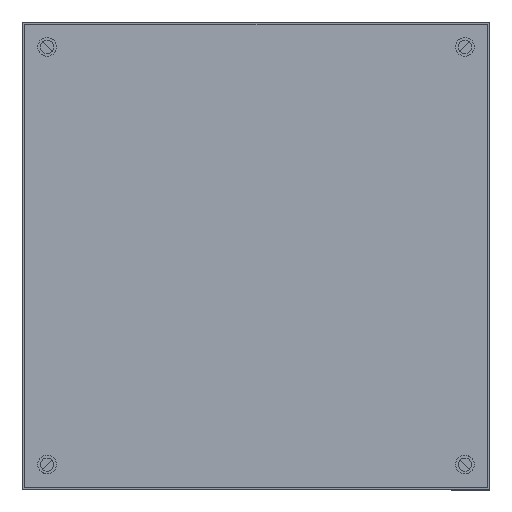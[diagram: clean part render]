
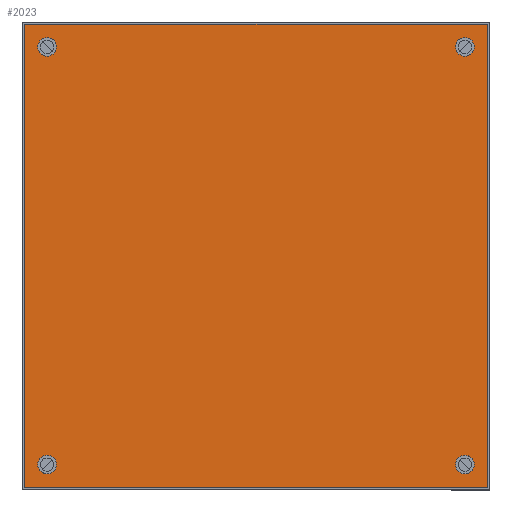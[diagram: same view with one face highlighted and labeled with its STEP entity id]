
A CAD part, top view. The second image highlights one B-rep face of the part: STEP entity #2023.
In plain terms, the highlighted planar face has unit normal (0, 0, 1).
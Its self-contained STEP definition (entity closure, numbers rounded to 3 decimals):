
#187=CIRCLE('',#2829,3.);
#189=CIRCLE('',#2832,3.);
#191=CIRCLE('',#2835,3.);
#193=CIRCLE('',#2838,3.);
#689=ORIENTED_EDGE('',*,*,#975,.F.);
#690=ORIENTED_EDGE('',*,*,#973,.F.);
#691=ORIENTED_EDGE('',*,*,#971,.F.);
#692=ORIENTED_EDGE('',*,*,#969,.F.);
#693=ORIENTED_EDGE('',*,*,#976,.F.);
#694=ORIENTED_EDGE('',*,*,#977,.F.);
#695=ORIENTED_EDGE('',*,*,#967,.F.);
#696=ORIENTED_EDGE('',*,*,#978,.F.);
#967=EDGE_CURVE('',#1152,#1153,#1314,.T.);
#969=EDGE_CURVE('',#1154,#1154,#187,.T.);
#971=EDGE_CURVE('',#1156,#1156,#189,.T.);
#973=EDGE_CURVE('',#1158,#1158,#191,.T.);
#975=EDGE_CURVE('',#1160,#1160,#193,.T.);
#976=EDGE_CURVE('',#1161,#1162,#1316,.T.);
#977=EDGE_CURVE('',#1153,#1161,#1317,.T.);
#978=EDGE_CURVE('',#1162,#1152,#1318,.T.);
#1152=VERTEX_POINT('',#4048);
#1153=VERTEX_POINT('',#4050);
#1154=VERTEX_POINT('',#4054);
#1156=VERTEX_POINT('',#4059);
#1158=VERTEX_POINT('',#4064);
#1160=VERTEX_POINT('',#4069);
#1161=VERTEX_POINT('',#4071);
#1162=VERTEX_POINT('',#4072);
#1314=LINE('',#4049,#1466);
#1316=LINE('',#4070,#1468);
#1317=LINE('',#4073,#1469);
#1318=LINE('',#4074,#1470);
#1466=VECTOR('',#3365,1000.);
#1468=VECTOR('',#3389,1000.);
#1469=VECTOR('',#3390,1000.);
#1470=VECTOR('',#3391,1000.);
#1627=EDGE_LOOP('',(#689));
#1628=EDGE_LOOP('',(#690));
#1629=EDGE_LOOP('',(#691));
#1630=EDGE_LOOP('',(#692));
#1631=EDGE_LOOP('',(#693,#694,#695,#696));
#1808=FACE_BOUND('',#1627,.T.);
#1809=FACE_BOUND('',#1628,.T.);
#1810=FACE_BOUND('',#1629,.T.);
#1811=FACE_BOUND('',#1630,.T.);
#1812=FACE_BOUND('',#1631,.T.);
#1904=PLANE('',#2837);
#2023=ADVANCED_FACE('',(#1808,#1809,#1810,#1811,#1812),#1904,.F.);
#2829=AXIS2_PLACEMENT_3D('',#4053,#3369,#3370);
#2832=AXIS2_PLACEMENT_3D('',#4058,#3375,#3376);
#2835=AXIS2_PLACEMENT_3D('',#4063,#3381,#3382);
#2837=AXIS2_PLACEMENT_3D('',#4067,#3385,#3386);
#2838=AXIS2_PLACEMENT_3D('',#4068,#3387,#3388);
#3365=DIRECTION('',(1.,0.,0.));
#3369=DIRECTION('',(0.,0.,1.));
#3370=DIRECTION('',(0.,1.,0.));
#3375=DIRECTION('',(0.,0.,1.));
#3376=DIRECTION('',(0.,1.,0.));
#3381=DIRECTION('',(0.,0.,1.));
#3382=DIRECTION('',(0.,1.,0.));
#3385=DIRECTION('',(0.,0.,-1.));
#3386=DIRECTION('',(-1.,0.,0.));
#3387=DIRECTION('',(0.,0.,1.));
#3388=DIRECTION('',(0.,1.,0.));
#3389=DIRECTION('',(-1.,0.,0.));
#3390=DIRECTION('',(0.,-1.,0.));
#3391=DIRECTION('',(0.,1.,0.));
#4048=CARTESIAN_POINT('',(-74.25,74.25,0.));
#4049=CARTESIAN_POINT('',(-74.25,74.25,0.));
#4050=CARTESIAN_POINT('',(74.25,74.25,0.));
#4053=CARTESIAN_POINT('',(-67.,-67.,0.));
#4054=CARTESIAN_POINT('',(-67.,-64.,0.));
#4058=CARTESIAN_POINT('',(-67.,67.,0.));
#4059=CARTESIAN_POINT('',(-67.,70.,0.));
#4063=CARTESIAN_POINT('',(67.,-67.,0.));
#4064=CARTESIAN_POINT('',(67.,-64.,0.));
#4067=CARTESIAN_POINT('',(0.,0.,0.));
#4068=CARTESIAN_POINT('',(67.,67.,0.));
#4069=CARTESIAN_POINT('',(67.,70.,0.));
#4070=CARTESIAN_POINT('',(74.25,-74.25,0.));
#4071=CARTESIAN_POINT('',(74.25,-74.25,0.));
#4072=CARTESIAN_POINT('',(-74.25,-74.25,0.));
#4073=CARTESIAN_POINT('',(74.25,74.25,0.));
#4074=CARTESIAN_POINT('',(-74.25,-74.25,0.));
